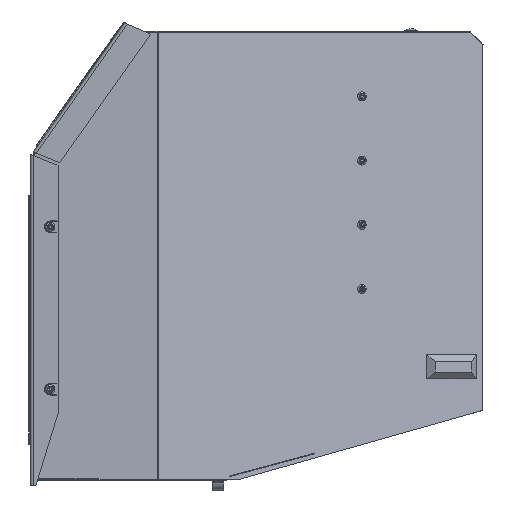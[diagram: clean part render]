
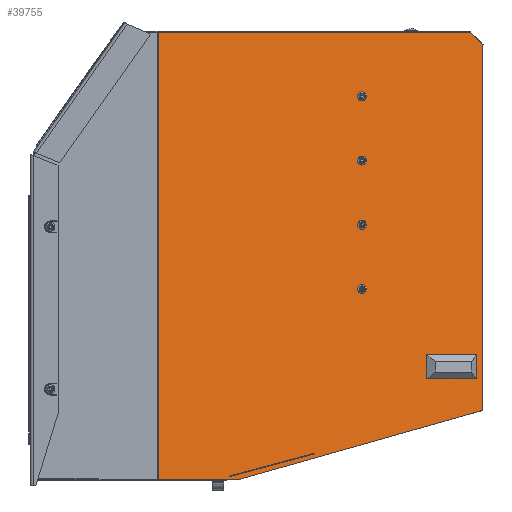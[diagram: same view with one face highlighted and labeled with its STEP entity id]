
A CAD part, left-side view. The second image highlights one B-rep face of the part: STEP entity #39755.
In plain terms, the highlighted planar face has unit normal (-0.953, -0.302, 0) as drawn and (0, 0, -1) by its records, which use the part's own axes.
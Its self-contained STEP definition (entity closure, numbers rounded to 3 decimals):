
#39310=CARTESIAN_POINT('',(440.994,-20.993,0.0));
#39311=VERTEX_POINT('',#39310);
#39318=CARTESIAN_POINT('',(440.994,54.007,0.0));
#39319=VERTEX_POINT('',#39318);
#39320=CARTESIAN_POINT('',(440.994,54.007,0.0));
#39321=DIRECTION('',(0.0,-1.0,0.0));
#39322=VECTOR('',#39321,75.0);
#39323=LINE('',#39320,#39322);
#39324=EDGE_CURVE('',#39319,#39311,#39323,.T.);
#39341=CARTESIAN_POINT('',(475.994,-20.993,0.0));
#39342=VERTEX_POINT('',#39341);
#39349=CARTESIAN_POINT('',(440.994,-20.993,0.0));
#39350=DIRECTION('',(1.0,0.0,0.0));
#39351=VECTOR('',#39350,35.0);
#39352=LINE('',#39349,#39351);
#39353=EDGE_CURVE('',#39311,#39342,#39352,.T.);
#39377=CARTESIAN_POINT('',(475.994,54.007,0.0));
#39378=VERTEX_POINT('',#39377);
#39385=CARTESIAN_POINT('',(475.994,-20.993,0.0));
#39386=DIRECTION('',(0.0,1.0,0.0));
#39387=VECTOR('',#39386,75.);
#39388=LINE('',#39385,#39387);
#39389=EDGE_CURVE('',#39342,#39378,#39388,.T.);
#39402=CARTESIAN_POINT('',(475.994,54.007,0.0));
#39403=DIRECTION('',(-1.0,0.0,0.0));
#39404=VECTOR('',#39403,35.0);
#39405=LINE('',#39402,#39404);
#39406=EDGE_CURVE('',#39378,#39319,#39405,.T.);
#39417=CARTESIAN_POINT('',(-26.241,461.608,0.0));
#39418=VERTEX_POINT('',#39417);
#39436=CARTESIAN_POINT('',(621.759,461.608,0.0));
#39437=VERTEX_POINT('',#39436);
#39445=CARTESIAN_POINT('',(-26.241,461.608,0.0));
#39446=DIRECTION('',(1.0,0.0,0.0));
#39447=VECTOR('',#39446,648.0);
#39448=LINE('',#39445,#39447);
#39449=EDGE_CURVE('',#39418,#39437,#39448,.T.);
#39623=CARTESIAN_POINT('',(296.523,304.147,0.0));
#39624=DIRECTION('',(0.0,0.0,1.0));
#39625=DIRECTION('',(1.0,0.0,0.0));
#39626=AXIS2_PLACEMENT_3D('',#39623,#39624,#39625);
#39627=PLANE('',#39626);
#39628=ORIENTED_EDGE('',*,*,#39449,.T.);
#39629=CARTESIAN_POINT('',(621.759,339.14,0.0));
#39630=VERTEX_POINT('',#39629);
#39631=CARTESIAN_POINT('',(621.759,339.14,0.0));
#39632=DIRECTION('',(0.0,1.0,0.0));
#39633=VECTOR('',#39632,122.468);
#39634=LINE('',#39631,#39633);
#39635=EDGE_CURVE('',#39630,#39437,#39634,.T.);
#39636=ORIENTED_EDGE('',*,*,#39635,.F.);
#39637=CARTESIAN_POINT('',(621.725,338.879,0.0));
#39638=VERTEX_POINT('',#39637);
#39639=CARTESIAN_POINT('',(620.759,339.14,0.0));
#39640=DIRECTION('',(0.0,0.0,1.0));
#39641=DIRECTION('',(0.965,-0.261,0.0));
#39642=AXIS2_PLACEMENT_3D('',#39639,#39640,#39641);
#39643=CIRCLE('',#39642,1.0);
#39644=EDGE_CURVE('',#39638,#39630,#39643,.T.);
#39645=ORIENTED_EDGE('',*,*,#39644,.F.);
#39646=CARTESIAN_POINT('',(521.959,-30.254,0.0));
#39647=VERTEX_POINT('',#39646);
#39648=CARTESIAN_POINT('',(521.959,-30.254,0.0));
#39649=DIRECTION('',(0.261,0.965,0.0));
#39650=VECTOR('',#39649,382.377);
#39651=LINE('',#39648,#39650);
#39652=EDGE_CURVE('',#39647,#39638,#39651,.T.);
#39653=ORIENTED_EDGE('',*,*,#39652,.F.);
#39654=CARTESIAN_POINT('',(520.994,-30.993,0.0));
#39655=VERTEX_POINT('',#39654);
#39656=CARTESIAN_POINT('',(520.994,-29.993,0.0));
#39657=DIRECTION('',(0.0,0.0,1.0));
#39658=DIRECTION('',(0.,-1.0,0.0));
#39659=AXIS2_PLACEMENT_3D('',#39656,#39657,#39658);
#39660=CIRCLE('',#39659,1.0);
#39661=EDGE_CURVE('',#39655,#39647,#39660,.T.);
#39662=ORIENTED_EDGE('',*,*,#39661,.F.);
#39663=CARTESIAN_POINT('',(-7.827,-30.993,0.0));
#39664=VERTEX_POINT('',#39663);
#39665=CARTESIAN_POINT('',(-7.827,-30.993,0.0));
#39666=DIRECTION('',(1.0,0.0,0.0));
#39667=VECTOR('',#39666,528.82);
#39668=LINE('',#39665,#39667);
#39669=EDGE_CURVE('',#39664,#39655,#39668,.T.);
#39670=ORIENTED_EDGE('',*,*,#39669,.F.);
#39671=CARTESIAN_POINT('',(-8.534,-30.7,0.0));
#39672=VERTEX_POINT('',#39671);
#39673=CARTESIAN_POINT('',(-7.827,-29.993,0.0));
#39674=DIRECTION('',(0.0,0.0,1.0));
#39675=DIRECTION('',(-0.707,-0.707,0.0));
#39676=AXIS2_PLACEMENT_3D('',#39673,#39674,#39675);
#39677=CIRCLE('',#39676,1.);
#39678=EDGE_CURVE('',#39672,#39664,#39677,.T.);
#39679=ORIENTED_EDGE('',*,*,#39678,.F.);
#39680=CARTESIAN_POINT('',(-25.948,-13.286,0.0));
#39681=VERTEX_POINT('',#39680);
#39682=CARTESIAN_POINT('',(-25.948,-13.286,0.0));
#39683=DIRECTION('',(0.707,-0.707,0.0));
#39684=VECTOR('',#39683,24.627);
#39685=LINE('',#39682,#39684);
#39686=EDGE_CURVE('',#39681,#39672,#39685,.T.);
#39687=ORIENTED_EDGE('',*,*,#39686,.F.);
#39688=CARTESIAN_POINT('',(-26.241,-12.578,0.0));
#39689=VERTEX_POINT('',#39688);
#39690=CARTESIAN_POINT('',(-25.241,-12.578,0.0));
#39691=DIRECTION('',(0.0,0.0,1.0));
#39692=DIRECTION('',(-1.0,0.0,0.0));
#39693=AXIS2_PLACEMENT_3D('',#39690,#39691,#39692);
#39694=CIRCLE('',#39693,1.);
#39695=EDGE_CURVE('',#39689,#39681,#39694,.T.);
#39696=ORIENTED_EDGE('',*,*,#39695,.F.);
#39697=CARTESIAN_POINT('',(-26.241,461.608,0.0));
#39698=DIRECTION('',(0.0,-1.0,0.0));
#39699=VECTOR('',#39698,474.186);
#39700=LINE('',#39697,#39699);
#39701=EDGE_CURVE('',#39418,#39689,#39700,.T.);
#39702=ORIENTED_EDGE('',*,*,#39701,.F.);
#39703=EDGE_LOOP('',(#39628,#39636,#39645,#39653,#39662,#39670,#39679,#39687,#39696,#39702));
#39704=FACE_OUTER_BOUND('',#39703,.T.);
#39705=ORIENTED_EDGE('',*,*,#39324,.T.);
#39706=ORIENTED_EDGE('',*,*,#39353,.T.);
#39707=ORIENTED_EDGE('',*,*,#39389,.T.);
#39708=ORIENTED_EDGE('',*,*,#39406,.T.);
#39709=EDGE_LOOP('',(#39705,#39706,#39707,#39708));
#39710=FACE_BOUND('',#39709,.T.);
#39711=CARTESIAN_POINT('',(249.259,152.007,0.0));
#39712=VERTEX_POINT('',#39711);
#39713=CARTESIAN_POINT('',(252.759,152.007,0.0));
#39714=DIRECTION('',(0.0,0.0,1.0));
#39715=DIRECTION('',(1.0,0.0,0.0));
#39716=AXIS2_PLACEMENT_3D('',#39713,#39714,#39715);
#39717=CIRCLE('',#39716,3.5);
#39718=EDGE_CURVE('',#39712,#39712,#39717,.T.);
#39719=ORIENTED_EDGE('',*,*,#39718,.T.);
#39720=EDGE_LOOP('',(#39719));
#39721=FACE_BOUND('',#39720,.T.);
#39722=CARTESIAN_POINT('',(63.259,152.007,0.0));
#39723=VERTEX_POINT('',#39722);
#39724=CARTESIAN_POINT('',(66.759,152.007,0.0));
#39725=DIRECTION('',(0.0,0.0,1.0));
#39726=DIRECTION('',(1.0,0.0,0.0));
#39727=AXIS2_PLACEMENT_3D('',#39724,#39725,#39726);
#39728=CIRCLE('',#39727,3.5);
#39729=EDGE_CURVE('',#39723,#39723,#39728,.T.);
#39730=ORIENTED_EDGE('',*,*,#39729,.T.);
#39731=EDGE_LOOP('',(#39730));
#39732=FACE_BOUND('',#39731,.T.);
#39733=CARTESIAN_POINT('',(156.259,152.007,0.0));
#39734=VERTEX_POINT('',#39733);
#39735=CARTESIAN_POINT('',(159.759,152.007,0.0));
#39736=DIRECTION('',(0.0,0.0,1.0));
#39737=DIRECTION('',(1.0,0.0,0.0));
#39738=AXIS2_PLACEMENT_3D('',#39735,#39736,#39737);
#39739=CIRCLE('',#39738,3.5);
#39740=EDGE_CURVE('',#39734,#39734,#39739,.T.);
#39741=ORIENTED_EDGE('',*,*,#39740,.T.);
#39742=EDGE_LOOP('',(#39741));
#39743=FACE_BOUND('',#39742,.T.);
#39744=CARTESIAN_POINT('',(342.259,152.007,0.0));
#39745=VERTEX_POINT('',#39744);
#39746=CARTESIAN_POINT('',(345.759,152.007,0.0));
#39747=DIRECTION('',(0.0,0.0,1.0));
#39748=DIRECTION('',(1.0,0.0,0.0));
#39749=AXIS2_PLACEMENT_3D('',#39746,#39747,#39748);
#39750=CIRCLE('',#39749,3.5);
#39751=EDGE_CURVE('',#39745,#39745,#39750,.T.);
#39752=ORIENTED_EDGE('',*,*,#39751,.T.);
#39753=EDGE_LOOP('',(#39752));
#39754=FACE_BOUND('',#39753,.T.);
#39755=ADVANCED_FACE('',(#39704,#39710,#39721,#39732,#39743,#39754),#39627,.F.);
